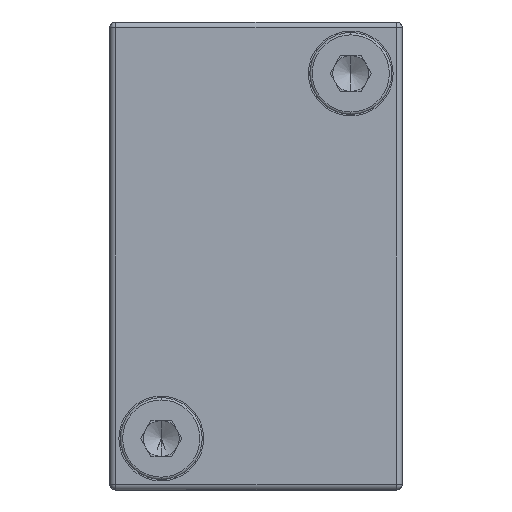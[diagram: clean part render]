
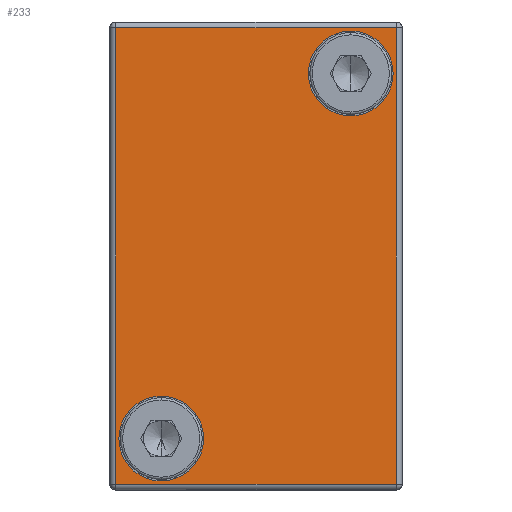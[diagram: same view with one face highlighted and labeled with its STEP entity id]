
A CAD part, front view. The second image highlights one B-rep face of the part: STEP entity #233.
In plain terms, the highlighted planar face has unit normal (0, -1, 0).
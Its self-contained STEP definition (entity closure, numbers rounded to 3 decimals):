
#218 = ORIENTED_EDGE ( 'NONE', *, *, #219, .T. ) ;
#219 = EDGE_CURVE ( 'NONE', #295, #236, #3751, .T. ) ;
#220 = EDGE_LOOP ( 'NONE', ( #221, #222 ) ) ;
#221 = ORIENTED_EDGE ( 'NONE', *, *, #232, .F. ) ;
#222 = ORIENTED_EDGE ( 'NONE', *, *, #885, .F. ) ;
#223 = EDGE_LOOP ( 'NONE', ( #273, #274 ) ) ;
#225 = EDGE_CURVE ( 'NONE', #718, #708, #3747, .T. ) ;
#232 = EDGE_CURVE ( 'NONE', #886, #883, #3740, .T. ) ;
#233 = ADVANCED_FACE ( 'NONE', ( #3798, #3797, #3796 ), #3795, .F. ) ;
#234 = EDGE_LOOP ( 'NONE', ( #235, #290, #293, #218 ) ) ;
#235 = ORIENTED_EDGE ( 'NONE', *, *, #288, .T. ) ;
#236 = VERTEX_POINT ( 'NONE', #3790 ) ;
#273 = ORIENTED_EDGE ( 'NONE', *, *, #225, .F. ) ;
#274 = ORIENTED_EDGE ( 'NONE', *, *, #713, .F. ) ;
#288 = EDGE_CURVE ( 'NONE', #236, #289, #3895, .T. ) ;
#289 = VERTEX_POINT ( 'NONE', #3887 ) ;
#290 = ORIENTED_EDGE ( 'NONE', *, *, #291, .T. ) ;
#291 = EDGE_CURVE ( 'NONE', #289, #292, #3886, .T. ) ;
#292 = VERTEX_POINT ( 'NONE', #3882 ) ;
#293 = ORIENTED_EDGE ( 'NONE', *, *, #294, .T. ) ;
#294 = EDGE_CURVE ( 'NONE', #292, #295, #3881, .T. ) ;
#295 = VERTEX_POINT ( 'NONE', #3877 ) ;
#708 = VERTEX_POINT ( 'NONE', #4598 ) ;
#713 = EDGE_CURVE ( 'NONE', #708, #718, #4587, .T. ) ;
#718 = VERTEX_POINT ( 'NONE', #4577 ) ;
#883 = VERTEX_POINT ( 'NONE', #4914 ) ;
#885 = EDGE_CURVE ( 'NONE', #883, #886, #4913, .T. ) ;
#886 = VERTEX_POINT ( 'NONE', #4908 ) ;
#3740 = CIRCLE ( 'NONE', #3802, 3.625 ) ;
#3743 = DIRECTION ( 'NONE',  ( 0., 0., 1. ) ) ;
#3744 = DIRECTION ( 'NONE',  ( 0., -1., 0. ) ) ;
#3745 = CARTESIAN_POINT ( 'NONE',  ( -8.1, -8., -15.6 ) ) ;
#3746 = AXIS2_PLACEMENT_3D ( 'NONE', #3745, #3744, #3743 ) ;
#3747 = CIRCLE ( 'NONE', #3746, 3.625 ) ;
#3748 = DIRECTION ( 'NONE',  ( 1., 0., 0. ) ) ;
#3749 = VECTOR ( 'NONE', #3748, 1000. ) ;
#3750 = CARTESIAN_POINT ( 'NONE',  ( 12.5, -8., -19.5 ) ) ;
#3751 = LINE ( 'NONE', #3750, #3749 ) ;
#3790 = CARTESIAN_POINT ( 'NONE',  ( 12., -8., -19.5 ) ) ;
#3791 = DIRECTION ( 'NONE',  ( 0., 0., -1. ) ) ;
#3792 = DIRECTION ( 'NONE',  ( 0., 1., 0. ) ) ;
#3793 = CARTESIAN_POINT ( 'NONE',  ( 12.5, -8., 20. ) ) ;
#3794 = AXIS2_PLACEMENT_3D ( 'NONE', #3793, #3792, #3791 ) ;
#3795 = PLANE ( 'NONE',  #3794 ) ;
#3796 = FACE_BOUND ( 'NONE', #223, .T. ) ;
#3797 = FACE_BOUND ( 'NONE', #220, .T. ) ;
#3798 = FACE_OUTER_BOUND ( 'NONE', #234, .T. ) ;
#3799 = DIRECTION ( 'NONE',  ( 0., 0., 1. ) ) ;
#3800 = DIRECTION ( 'NONE',  ( 0., -1., 0. ) ) ;
#3801 = CARTESIAN_POINT ( 'NONE',  ( 8.1, -8., 15.6 ) ) ;
#3802 = AXIS2_PLACEMENT_3D ( 'NONE', #3801, #3800, #3799 ) ;
#3877 = CARTESIAN_POINT ( 'NONE',  ( -12., -8., -19.5 ) ) ;
#3878 = DIRECTION ( 'NONE',  ( 0., 0., -1. ) ) ;
#3879 = VECTOR ( 'NONE', #3878, 1000. ) ;
#3880 = CARTESIAN_POINT ( 'NONE',  ( -12., -8., 20. ) ) ;
#3881 = LINE ( 'NONE', #3880, #3879 ) ;
#3882 = CARTESIAN_POINT ( 'NONE',  ( -12., -8., 19.5 ) ) ;
#3883 = DIRECTION ( 'NONE',  ( -1., 0., 0. ) ) ;
#3884 = VECTOR ( 'NONE', #3883, 1000. ) ;
#3885 = CARTESIAN_POINT ( 'NONE',  ( 12.5, -8., 19.5 ) ) ;
#3886 = LINE ( 'NONE', #3885, #3884 ) ;
#3887 = CARTESIAN_POINT ( 'NONE',  ( 12., -8., 19.5 ) ) ;
#3888 = DIRECTION ( 'NONE',  ( 0., 0., 1. ) ) ;
#3889 = VECTOR ( 'NONE', #3888, 1000. ) ;
#3890 = CARTESIAN_POINT ( 'NONE',  ( 12., -8., 20. ) ) ;
#3895 = LINE ( 'NONE', #3890, #3889 ) ;
#4577 = CARTESIAN_POINT ( 'NONE',  ( -8.1, -8., -11.975 ) ) ;
#4583 = DIRECTION ( 'NONE',  ( 0., 0., 1. ) ) ;
#4584 = DIRECTION ( 'NONE',  ( 0., -1., 0. ) ) ;
#4585 = CARTESIAN_POINT ( 'NONE',  ( -8.1, -8., -15.6 ) ) ;
#4586 = AXIS2_PLACEMENT_3D ( 'NONE', #4585, #4584, #4583 ) ;
#4587 = CIRCLE ( 'NONE', #4586, 3.625 ) ;
#4598 = CARTESIAN_POINT ( 'NONE',  ( -8.1, -8., -19.225 ) ) ;
#4908 = CARTESIAN_POINT ( 'NONE',  ( 8.1, -8., 19.225 ) ) ;
#4909 = DIRECTION ( 'NONE',  ( 0., 0., 1. ) ) ;
#4910 = DIRECTION ( 'NONE',  ( 0., -1., 0. ) ) ;
#4911 = CARTESIAN_POINT ( 'NONE',  ( 8.1, -8., 15.6 ) ) ;
#4912 = AXIS2_PLACEMENT_3D ( 'NONE', #4911, #4910, #4909 ) ;
#4913 = CIRCLE ( 'NONE', #4912, 3.625 ) ;
#4914 = CARTESIAN_POINT ( 'NONE',  ( 8.1, -8., 11.975 ) ) ;
